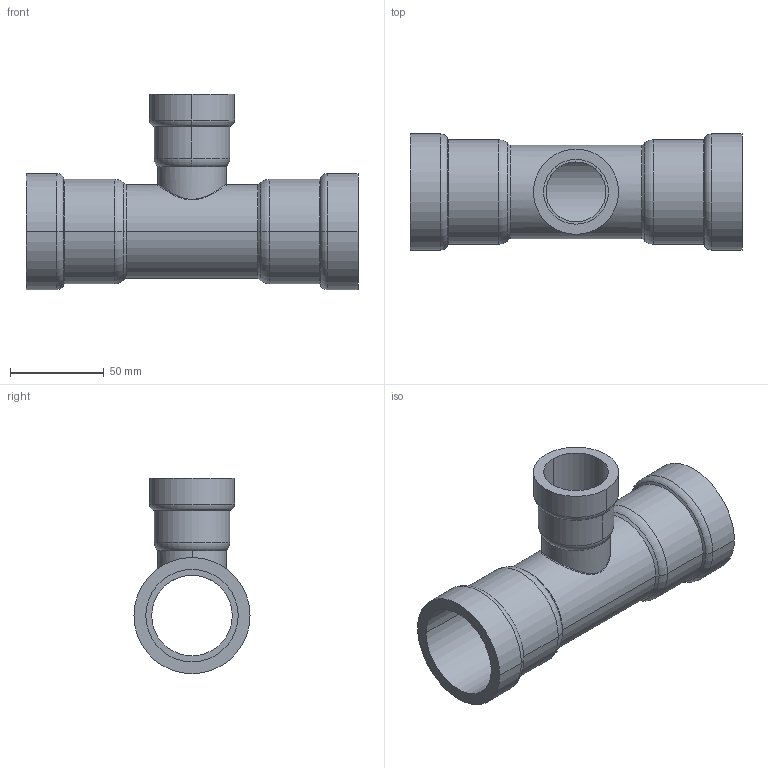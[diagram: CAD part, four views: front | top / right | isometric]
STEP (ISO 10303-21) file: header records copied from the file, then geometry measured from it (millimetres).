
FILE_DESCRIPTION(('Creo Elements/Direct Modeling STEP Export'),'2;1');
FILE_NAME('C9415_1-1-2_1_1-1-2.stp','2020-07-15T 9:49:38',(''),(''),'PTC Creo Elements/Direct Modeling STEP processor for AP214 (Solid Model)','PTC Creo Elements/Direct Modeling 19.0C 15-Aug-2015 (C) Parametric Technology GmbH','');
FILE_SCHEMA(('AUTOMOTIVE_DESIGN { 1 0 10303 214 1 1 1 1 }'));
Length unit declared in the file: millimetre
Products named in the file (1): 9415_1-1-2_1_1-1-2
Bounding box: 177.18 x 62 x 104.28 mm (x, y, z)
Volume: 134763.8 mm3; surface area: 71755.3 mm2
Topology: 1 solids, 1 shells, 58 faces, 130 edges, 78 vertices
Faces by surface type: cylinder 26, torus 12, cone 10, plane 6, bspline 4
Entity records: 6093 total; most frequent: CARTESIAN_POINT 4914, ORIENTED_EDGE 260, DIRECTION 228, EDGE_CURVE 130, AXIS2_PLACEMENT_3D 96, VERTEX_POINT 78, EDGE_LOOP 66, FACE_OUTER_BOUND 58
